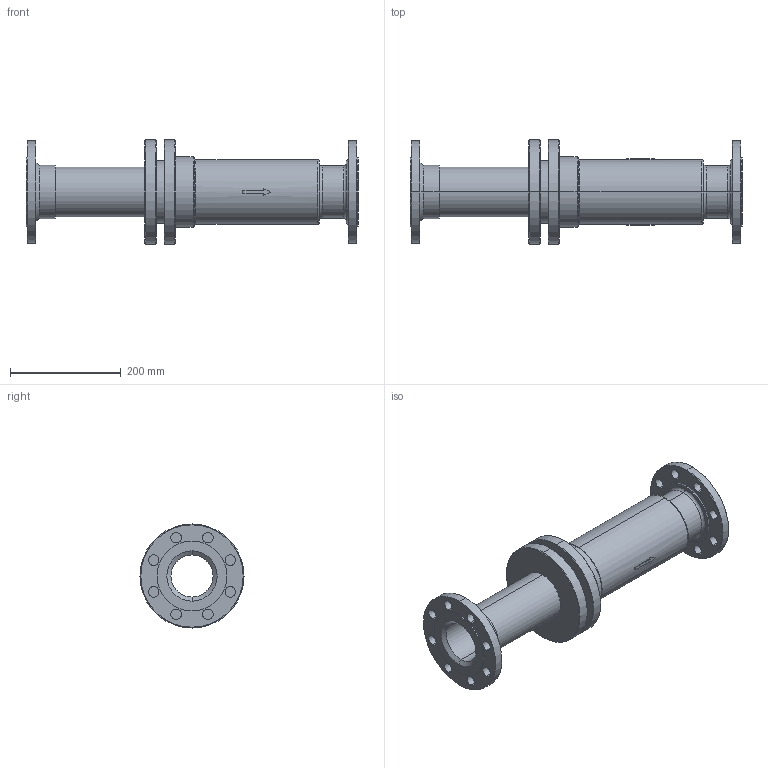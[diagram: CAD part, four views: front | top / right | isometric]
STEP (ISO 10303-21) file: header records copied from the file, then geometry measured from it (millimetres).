
FILE_DESCRIPTION( (''), '2;1');
FILE_NAME ('PC1027.9516.ES-10-200 80A_28201.stp','2025-07-30T14:45:41',(''),(''),'spGate 20.6.3 (****-****-****-****)','','');
FILE_SCHEMA (('AUTOMOTIVE_DESIGN'));
Length unit declared in the file: millimetre
Bounding box: 600 x 188 x 188 mm (x, y, z)
Volume: 3778624.3 mm3; surface area: 526690.9 mm2
Topology: 1 solids, 1 shells, 126 faces, 298 edges, 188 vertices
Faces by surface type: cylinder 62, bspline 34, plane 30
Entity records: 6489 total; most frequent: CARTESIAN_POINT 1282, ORIENTED_EDGE 596, DIRECTION 548, COLOUR_RGB 425, PRESENTATION_STYLE_ASSIGNMENT 425, STYLED_ITEM 425, EDGE_CURVE 298, DRAUGHTING_PRE_DEFINED_CURVE_FONT 298
